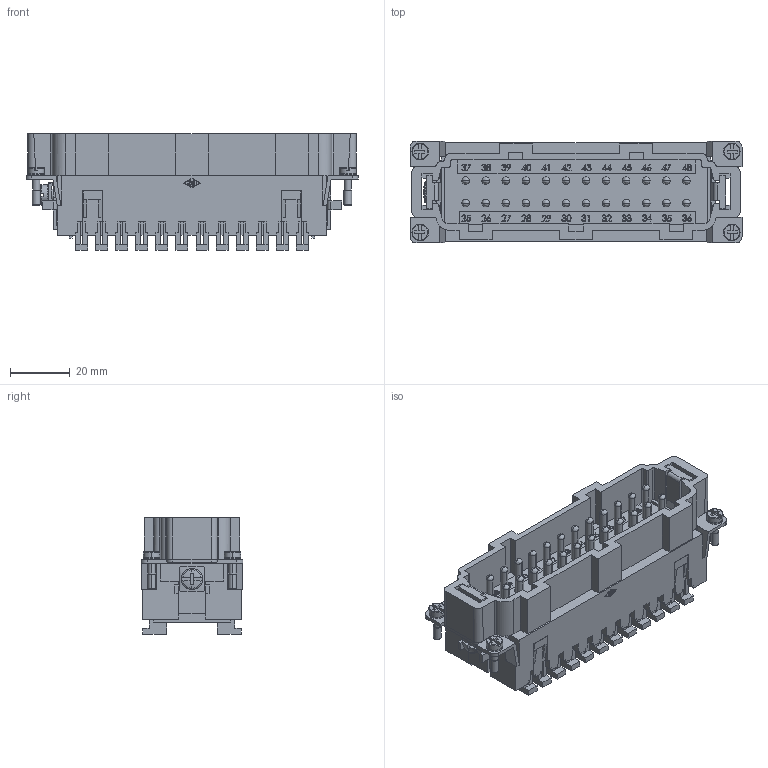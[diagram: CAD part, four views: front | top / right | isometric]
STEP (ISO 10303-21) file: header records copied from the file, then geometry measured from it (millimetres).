
FILE_DESCRIPTION (( 'STEP AP214' ), '1' );
FILE_NAME ('CSHM-24N.STEP', '2016-01-12T18:51:27', ( 'Mencom User' ), ( 'Hewlett-Packard Company' ), 'SwSTEP 2.0', 'SolidWorks 2015', '' );
FILE_SCHEMA (( 'AUTOMOTIVE_DESIGN' ));
Length unit declared in the file: millimetre
Products named in the file (1): CSHM-24N
Bounding box: 110.8 x 34 x 39 mm (x, y, z)
Volume: 69865.8 mm3; surface area: 36896.8 mm2
Topology: 1 solids, 1 shells, 2351 faces, 6588 edges, 4280 vertices
Faces by surface type: plane 1639, bspline 408, cylinder 252, cone 40, torus 10, sphere 2
Entity records: 104205 total; most frequent: CARTESIAN_POINT 35772, ORIENTED_EDGE 13032, DIRECTION 10287, EDGE_CURVE 6516, VECTOR 5049, LINE 5049, VERTEX_POINT 4280, AXIS2_PLACEMENT_3D 2619
